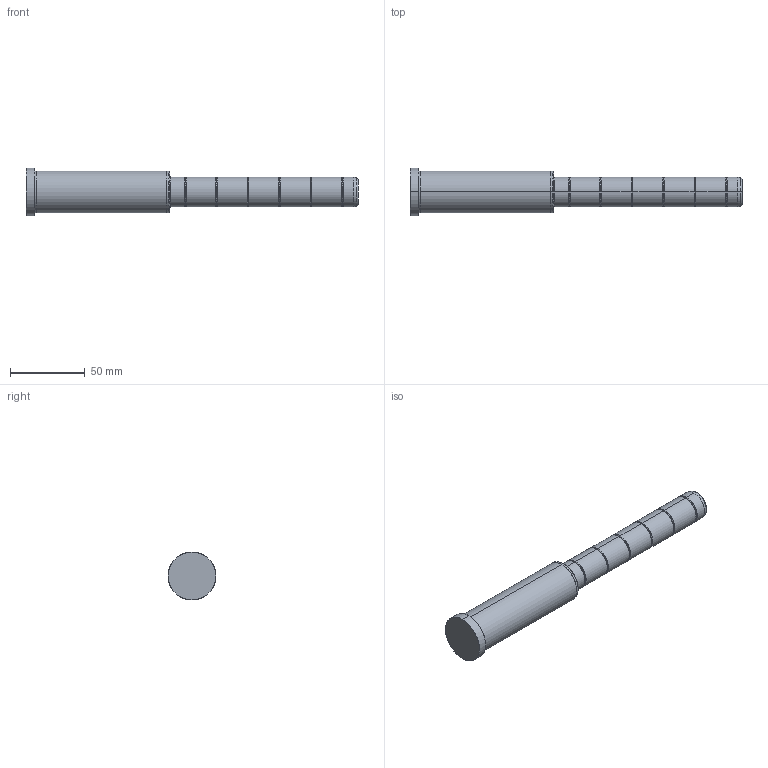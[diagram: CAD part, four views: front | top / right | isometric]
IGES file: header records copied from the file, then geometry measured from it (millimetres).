
Start section: SolidWorks IGES file using analytic representation for surfaces
Global section: file name: C:\Documents and Settings\kalite-mail\Desktop\IGS\D02\20\D02 - 20x96x126.IGS; native system: SolidWorks 2008; preprocessor: SolidWorks 2008; author: kalite-mail; date: 080616.170012; units: millimetre
Bounding box: 222 x 32 x 32 mm (x, y, z)
Surface area: 18146.4 mm2 (no closed solid volume)
Topology: 0 solids, 0 shells, 60 faces, 760 edges, 760 vertices
Faces by surface type: bspline 34, revolution 26
